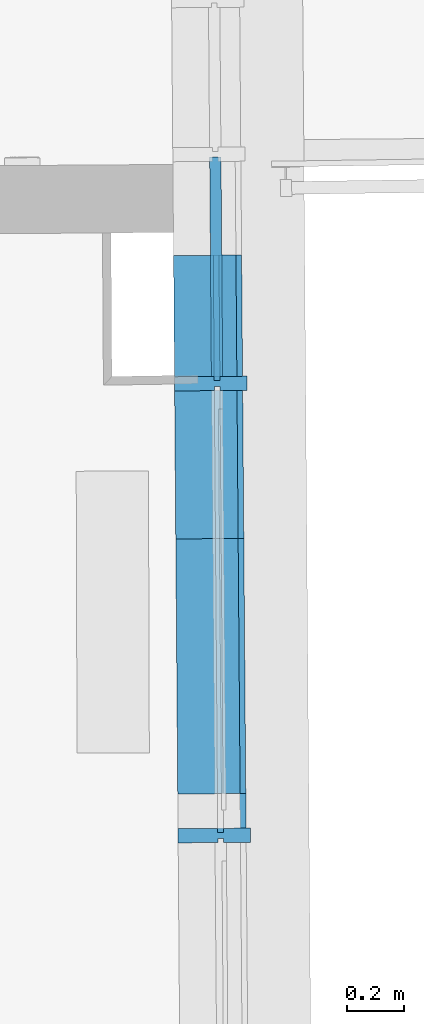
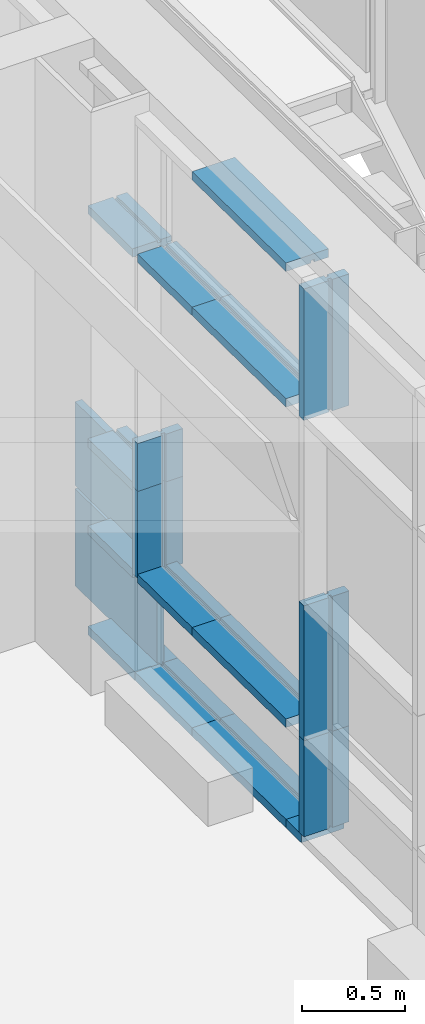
# One storey, part 130 of 158: 19 building element parts, 1 element without a shape of its own.
"""IFC2X3 building model written with IfcOpenShell, lengths in metres."""

from ifc_helpers import new_model, entity, si_unit, converted_unit, derived_unit, money_unit, direction, frame, origin_with_axes, place, context, subcontext, project, spatial, faceted_brep, material, type_object, element, aggregate, save


model = new_model("IFC2X3")

# Units and contexts
model_context = context("Model", 3, precision=1e-05, world=origin_with_axes(), true_north=direction((0.0, 1.0)))
body_context = subcontext(model_context, "Body", "Model", "MODEL_VIEW")
ifc_project = project(units=[si_unit("LENGTHUNIT", "METRE"), si_unit("AREAUNIT", "SQUARE_METRE"), si_unit("VOLUMEUNIT", "CUBIC_METRE"), converted_unit("PLANEANGLEUNIT", "DEGREE", entity("IfcPlaneAngleMeasure", 0.0174532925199), si_unit("PLANEANGLEUNIT", "RADIAN"), dimensions=[0, 0, 0, 0, 0, 0, 0]), money_unit("EUR"), converted_unit("TIMEUNIT", "Year", entity("IfcTimeMeasure", 31556926.0), si_unit("TIMEUNIT", "SECOND"), dimensions=[0, 0, 1, 0, 0, 0, 0]), si_unit("MASSUNIT", "GRAM", prefix="KILO"), si_unit("THERMODYNAMICTEMPERATUREUNIT", "DEGREE_CELSIUS"), si_unit("LUMINOUSINTENSITYUNIT", "LUMEN"), si_unit("ENERGYUNIT", "JOULE", prefix="MEGA"), derived_unit("THERMALCONDUCTANCEUNIT", [(si_unit("POWERUNIT", "WATT"), 1), (si_unit("LENGTHUNIT", "METRE"), -1), (si_unit("THERMODYNAMICTEMPERATUREUNIT", "KELVIN"), -1)]), derived_unit("SPECIFICHEATCAPACITYUNIT", [(si_unit("ENERGYUNIT", "JOULE"), 1), (si_unit("MASSUNIT", "GRAM", prefix="KILO"), -1), (si_unit("THERMODYNAMICTEMPERATUREUNIT", "KELVIN"), -1)]), derived_unit("MASSDENSITYUNIT", [(si_unit("MASSUNIT", "GRAM", prefix="KILO"), 1), (si_unit("VOLUMEUNIT", "CUBIC_METRE"), -1)])], contexts=[model_context])

# Site, building, storey
site_placement = place(None, origin_with_axes())
site = spatial("IfcSite", under=ifc_project, at=site_placement, Name="Gelände", CompositionType="ELEMENT")
building_placement = place(site_placement, origin_with_axes())
building = spatial("IfcBuilding", under=site, at=building_placement, Name="Gebäude", CompositionType="ELEMENT")
storey_placement = place(building_placement, origin_with_axes())
storey = spatial("IfcBuildingStorey", under=building, at=storey_placement, Name="ERDGESCHOSS", CompositionType="ELEMENT", Elevation=0.0)

# Proxy, building element parts
building_element_proxy_type = type_object("IfcBuildingElementProxyType", Name="Fassadentyp", PredefinedType="NOTDEFINED")
proxy_placement = place(storey_placement, frame((-15.5457352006, 40.9565245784, 1.34043905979), z_axis=(0.0, 0.0, 1.0), x_axis=(1.0, 0.0, 0.0)))
proxy = element("IfcBuildingElementProxy", 1, at=proxy_placement, inside=storey, type_object=building_element_proxy_type, Name="Fassade-002")
ifc_material_1 = material(Name="45_Glas, Normalglas")
building_element_part_1_placement = place(proxy_placement, origin_with_axes())
building_element_part_1 = element("IfcBuildingElementPart", 2, at=building_element_part_1_placement, material=ifc_material_1, Name="45_Glas, Normalglas", context=body_context, shape_type="Brep", body=[
    faceted_brep([(-0.0270583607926, 0.907042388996, 1.12681094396), (0.0129404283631, 0.907353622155, 1.12681094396), (0.00949520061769, 1.35012436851, 1.12681094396), (-0.030503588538, 1.34981313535, 1.12681094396), (-0.0270583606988, 0.907042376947, 0.629999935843), (0.0129404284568, 0.907353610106, 0.629999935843), (0.00949520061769, 1.35012436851, 0.629999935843), (0.00680440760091, 1.69593733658, 0.629999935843), (0.00680440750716, 1.69593734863, 1.12681094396), (-0.0331943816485, 1.69562611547, 1.12681094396), (-0.0331943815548, 1.69562610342, 0.629999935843), (-0.030503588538, 1.34981313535, 0.629999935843)], [[[0, 1, 2, 3]], [[4, 5, 1, 0]], [[1, 5, 6, 7, 8, 2]], [[3, 2, 8, 9]], [[0, 3, 9, 10, 11, 4]], [[11, 6, 5, 4]], [[10, 7, 6, 11]], [[9, 8, 7, 10]]]),
])
building_element_part_2_placement = place(proxy_placement, origin_with_axes())
building_element_part_2 = element("IfcBuildingElementPart", 3, at=building_element_part_2_placement, material=ifc_material_1, Name="45_Glas, Normalglas", context=body_context, shape_type="Brep", body=[
    faceted_brep([(-0.027058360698, 0.907042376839, 0.609999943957), (0.0129404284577, 0.907353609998, 0.609999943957), (0.00949520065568, 1.35012436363, 0.609999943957), (-0.0305035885, 1.34981313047, 0.609999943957), (-0.027058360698, 0.907042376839, 0.0349999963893), (0.0129404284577, 0.907353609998, 0.0349999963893), (0.00949520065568, 1.35012436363, 0.0349999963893), (0.00680440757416, 1.69593734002, 0.0349999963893), (0.00680440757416, 1.69593734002, 0.609999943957), (-0.0331943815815, 1.69562610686, 0.609999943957), (-0.0331943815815, 1.69562610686, 0.0349999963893), (-0.0305035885, 1.34981313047, 0.0349999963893)], [[[0, 1, 2, 3]], [[4, 5, 1, 0]], [[1, 5, 6, 7, 8, 2]], [[3, 2, 8, 9]], [[0, 3, 9, 10, 11, 4]], [[11, 6, 5, 4]], [[10, 7, 6, 11]], [[9, 8, 7, 10]]]),
])
ifc_material_2 = material(Name="53_Metall, Aluminium")
building_element_part_3_placement = place(proxy_placement, origin_with_axes())
building_element_part_3 = element("IfcBuildingElementPart", 4, at=building_element_part_3_placement, material=ifc_material_2, Name="53_Metall, Aluminium", context=body_context, shape_type="Brep", body=[
    faceted_brep([(-0.00572031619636, -0.55005154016, 0.60999994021), (0.0142790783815, -0.54989592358, 0.60999994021), (0.0142790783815, -0.54989592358, 0.59499994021), (0.074277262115, -0.549429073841, 0.59499994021), (0.074277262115, -0.549429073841, 0.64499994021), (0.0142790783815, -0.54989592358, 0.64499994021), (0.0142790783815, -0.54989592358, 0.62999994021), (-0.00572031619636, -0.55005154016, 0.62999994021), (-0.00572031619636, -0.55005154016, 0.64499994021), (-0.145716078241, -0.551140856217, 0.64499994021), (-0.145716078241, -0.551140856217, 0.59499994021), (-0.00572031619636, -0.55005154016, 0.59499994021), (-0.012723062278, 0.349921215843, 0.60999994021), (0.00727633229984, 0.350076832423, 0.60999994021), (0.00727633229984, 0.350076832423, 0.59499994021), (0.0672745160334, 0.350543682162, 0.59499994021), (0.0672745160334, 0.350543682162, 0.64499994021), (0.00727633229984, 0.350076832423, 0.64499994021), (0.00727633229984, 0.350076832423, 0.62999994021), (-0.012723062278, 0.349921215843, 0.62999994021), (-0.012723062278, 0.349921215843, 0.64499994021), (-0.152718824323, 0.348831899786, 0.64499994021), (-0.152718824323, 0.348831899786, 0.59499994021), (-0.012723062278, 0.349921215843, 0.59499994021)], [[[0, 1, 2, 3, 4, 5, 6, 7, 8, 9, 10, 11]], [[0, 12, 13, 1]], [[1, 13, 14, 2]], [[14, 15, 3, 2]], [[3, 15, 16, 4]], [[17, 5, 4, 16]], [[5, 17, 18, 6]], [[7, 6, 18, 19]], [[8, 7, 19, 20]], [[8, 20, 21, 9]], [[9, 21, 22, 10]], [[11, 10, 22, 23]], [[11, 23, 12, 0]], [[13, 12, 23, 22, 21, 20, 19, 18, 17, 16, 15, 14]]]),
])
building_element_part_4_placement = place(proxy_placement, origin_with_axes())
building_element_part_4 = element("IfcBuildingElementPart", 5, at=building_element_part_4_placement, material=ifc_material_2, Name="53_Metall, Aluminium", context=body_context, shape_type="Brep", body=[
    faceted_brep([(-0.0171753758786, 0.922119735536, 0.60999994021), (0.00282401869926, 0.922275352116, 0.60999994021), (0.00282401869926, 0.922275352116, 0.59499994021), (0.0628222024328, 0.922742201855, 0.59499994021), (0.0628222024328, 0.922742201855, 0.64499994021), (0.00282401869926, 0.922275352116, 0.64499994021), (0.00282401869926, 0.922275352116, 0.62999994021), (-0.0171753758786, 0.922119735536, 0.62999994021), (-0.0171753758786, 0.922119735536, 0.64499994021), (-0.157171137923, 0.921030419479, 0.64499994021), (-0.157171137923, 0.921030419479, 0.59499994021), (-0.0171753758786, 0.922119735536, 0.59499994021), (-0.0205038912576, 1.34989094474, 0.60999994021), (-0.000504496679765, 1.35004656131, 0.60999994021), (-0.000504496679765, 1.35004656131, 0.59499994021), (0.0594936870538, 1.35051341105, 0.59499994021), (0.0594936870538, 1.35051341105, 0.64499994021), (-0.000504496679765, 1.35004656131, 0.64499994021), (-0.000504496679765, 1.35004656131, 0.62999994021), (-0.0205038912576, 1.34989094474, 0.62999994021), (-0.0205038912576, 1.34989094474, 0.64499994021), (-0.160499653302, 1.34880162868, 0.64499994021), (-0.160499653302, 1.34880162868, 0.59499994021), (-0.0205038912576, 1.34989094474, 0.59499994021)], [[[0, 1, 2, 3, 4, 5, 6, 7, 8, 9, 10, 11]], [[0, 12, 13, 1]], [[1, 13, 14, 2]], [[14, 15, 3, 2]], [[3, 15, 16, 4]], [[17, 5, 4, 16]], [[5, 17, 18, 6]], [[7, 6, 18, 19]], [[8, 7, 19, 20]], [[8, 20, 21, 9]], [[9, 21, 22, 10]], [[11, 10, 22, 23]], [[11, 23, 12, 0]], [[13, 12, 23, 22, 21, 20, 19, 18, 17, 16, 15, 14]]]),
])
building_element_part_5_placement = place(proxy_placement, origin_with_axes())
building_element_part_5 = element("IfcBuildingElementPart", 6, at=building_element_part_5_placement, material=ifc_material_2, Name="53_Metall, Aluminium", context=body_context, shape_type="Brep", body=[
    faceted_brep([(-0.00572031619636, -0.55005154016, 2.50999994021), (0.0142790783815, -0.54989592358, 2.50999994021), (0.0142790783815, -0.54989592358, 2.49499994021), (0.074277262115, -0.549429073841, 2.49499994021), (0.074277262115, -0.549429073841, 2.54499994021), (0.0142790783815, -0.54989592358, 2.54499994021), (0.0142790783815, -0.54989592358, 2.52999994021), (-0.00572031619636, -0.55005154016, 2.52999994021), (-0.00572031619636, -0.55005154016, 2.54499994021), (-0.145716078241, -0.551140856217, 2.54499994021), (-0.145716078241, -0.551140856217, 2.49499994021), (-0.00572031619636, -0.55005154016, 2.49499994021), (-0.012723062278, 0.349921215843, 2.50999994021), (0.00727633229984, 0.350076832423, 2.50999994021), (0.00727633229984, 0.350076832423, 2.49499994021), (0.0672745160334, 0.350543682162, 2.49499994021), (0.0672745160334, 0.350543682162, 2.54499994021), (0.00727633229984, 0.350076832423, 2.54499994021), (0.00727633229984, 0.350076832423, 2.52999994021), (-0.012723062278, 0.349921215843, 2.52999994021), (-0.012723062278, 0.349921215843, 2.54499994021), (-0.152718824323, 0.348831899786, 2.54499994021), (-0.152718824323, 0.348831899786, 2.49499994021), (-0.012723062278, 0.349921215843, 2.49499994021)], [[[0, 1, 2, 3, 4, 5, 6, 7, 8, 9, 10, 11]], [[0, 12, 13, 1]], [[1, 13, 14, 2]], [[14, 15, 3, 2]], [[3, 15, 16, 4]], [[17, 5, 4, 16]], [[5, 17, 18, 6]], [[7, 6, 18, 19]], [[8, 7, 19, 20]], [[8, 20, 21, 9]], [[9, 21, 22, 10]], [[11, 10, 22, 23]], [[11, 23, 12, 0]], [[13, 12, 23, 22, 21, 20, 19, 18, 17, 16, 15, 14]]]),
])
building_element_part_6_placement = place(proxy_placement, origin_with_axes())
building_element_part_6 = element("IfcBuildingElementPart", 7, at=building_element_part_6_placement, material=ifc_material_2, Name="53_Metall, Aluminium", context=body_context, shape_type="Brep", body=[
    faceted_brep([(-0.012723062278, 0.349921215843, 0.60999994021), (0.00727633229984, 0.350076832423, 0.60999994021), (0.00727633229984, 0.350076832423, 0.59499994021), (0.0672745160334, 0.350543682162, 0.59499994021), (0.0672745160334, 0.350543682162, 0.64499994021), (0.00727633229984, 0.350076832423, 0.64499994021), (0.00727633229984, 0.350076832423, 0.62999994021), (-0.012723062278, 0.349921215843, 0.62999994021), (-0.012723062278, 0.349921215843, 0.64499994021), (-0.152718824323, 0.348831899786, 0.64499994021), (-0.152718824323, 0.348831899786, 0.59499994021), (-0.012723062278, 0.349921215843, 0.59499994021), (-0.0167863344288, 0.872121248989, 0.60999994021), (0.00321306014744, 0.872276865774, 0.60999994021), (0.00321306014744, 0.872276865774, 0.59499994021), (0.0632112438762, 0.872743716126, 0.59499994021), (0.0632112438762, 0.872743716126, 0.64499994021), (0.00321306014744, 0.872276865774, 0.64499994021), (0.00321306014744, 0.872276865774, 0.62999994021), (-0.0167863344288, 0.872121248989, 0.62999994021), (-0.0167863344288, 0.872121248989, 0.64499994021), (-0.156782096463, 0.8710319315, 0.64499994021), (-0.156782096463, 0.8710319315, 0.59499994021), (-0.0167863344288, 0.872121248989, 0.59499994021)], [[[0, 1, 2, 3, 4, 5, 6, 7, 8, 9, 10, 11]], [[0, 12, 13, 1]], [[1, 13, 14, 2]], [[14, 15, 3, 2]], [[4, 3, 15, 16]], [[17, 5, 4, 16]], [[5, 17, 18, 6]], [[7, 6, 18, 19]], [[8, 7, 19, 20]], [[8, 20, 21, 9]], [[10, 9, 21, 22]], [[11, 10, 22, 23]], [[11, 23, 12, 0]], [[13, 12, 23, 22, 21, 20, 19, 18, 17, 16, 15, 14]]]),
])
building_element_part_7_placement = place(proxy_placement, origin_with_axes())
building_element_part_7 = element("IfcBuildingElementPart", 8, at=building_element_part_7_placement, material=ifc_material_2, Name="53_Metall, Aluminium", context=body_context, shape_type="Brep", body=[
    faceted_brep([(-0.0169030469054, 0.887120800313, 1.41999994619), (0.0030963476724, 0.887276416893, 1.41999994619), (0.00321306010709, 0.872276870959, 1.41999994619), (0.0982101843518, 0.873016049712, 1.41999994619), (0.0978211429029, 0.923014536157, 1.41999994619), (0.00282401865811, 0.922275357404, 1.41999994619), (0.0029407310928, 0.90727581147, 1.41999994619), (-0.017058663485, 0.907120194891, 1.41999994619), (-0.0171753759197, 0.922119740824, 1.41999994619), (-0.157171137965, 0.921030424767, 1.41999994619), (-0.156782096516, 0.871031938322, 1.41999994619), (-0.0167863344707, 0.87212125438, 1.41999994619), (-0.0169030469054, 0.887120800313, 1.13681093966), (0.0030963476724, 0.887276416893, 1.13681093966), (0.00321306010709, 0.872276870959, 1.13681093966), (0.0982101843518, 0.873016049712, 1.13681093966), (0.0978211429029, 0.923014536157, 1.13681093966), (0.00282401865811, 0.922275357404, 1.13681093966), (0.0029407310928, 0.90727581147, 1.13681093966), (-0.017058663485, 0.907120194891, 1.13681093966), (-0.0171753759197, 0.922119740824, 1.13681093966), (-0.157171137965, 0.921030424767, 1.13681093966), (-0.156782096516, 0.871031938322, 1.13681093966), (-0.0167863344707, 0.87212125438, 1.13681093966)], [[[0, 1, 2, 3, 4, 5, 6, 7, 8, 9, 10, 11]], [[0, 12, 13, 1]], [[1, 13, 14, 2]], [[14, 15, 3, 2]], [[3, 15, 16, 4]], [[17, 5, 4, 16]], [[5, 17, 18, 6]], [[7, 6, 18, 19]], [[8, 7, 19, 20]], [[8, 20, 21, 9]], [[9, 21, 22, 10]], [[11, 10, 22, 23]], [[11, 23, 12, 0]], [[13, 12, 23, 22, 21, 20, 19, 18, 17, 16, 15, 14]]]),
])
building_element_part_8_placement = place(proxy_placement, origin_with_axes())
building_element_part_8 = element("IfcBuildingElementPart", 9, at=building_element_part_8_placement, material=ifc_material_2, Name="53_Metall, Aluminium", context=body_context, shape_type="Brep", body=[
    faceted_brep([(-0.0171753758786, 0.922119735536, 2.50999994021), (0.00282401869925, 0.922275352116, 2.50999994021), (0.00282401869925, 0.922275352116, 2.49499994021), (0.0628222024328, 0.922742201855, 2.49499994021), (0.0628222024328, 0.922742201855, 2.54499994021), (0.00282401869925, 0.922275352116, 2.54499994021), (0.00282401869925, 0.922275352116, 2.52999994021), (-0.0171753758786, 0.922119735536, 2.52999994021), (-0.0171753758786, 0.922119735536, 2.54499994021), (-0.157171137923, 0.921030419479, 2.54499994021), (-0.157171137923, 0.921030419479, 2.49499994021), (-0.0171753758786, 0.922119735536, 2.49499994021), (-0.0205038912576, 1.34989094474, 2.50999994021), (-0.000504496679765, 1.35004656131, 2.50999994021), (-0.000504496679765, 1.35004656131, 2.49499994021), (0.0594936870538, 1.35051341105, 2.49499994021), (0.0594936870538, 1.35051341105, 2.54499994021), (-0.000504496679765, 1.35004656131, 2.54499994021), (-0.000504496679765, 1.35004656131, 2.52999994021), (-0.0205038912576, 1.34989094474, 2.52999994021), (-0.0205038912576, 1.34989094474, 2.54499994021), (-0.160499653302, 1.34880162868, 2.54499994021), (-0.160499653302, 1.34880162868, 2.49499994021), (-0.0205038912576, 1.34989094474, 2.49499994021)], [[[0, 1, 2, 3, 4, 5, 6, 7, 8, 9, 10, 11]], [[0, 12, 13, 1]], [[1, 13, 14, 2]], [[14, 15, 3, 2]], [[3, 15, 16, 4]], [[17, 5, 4, 16]], [[5, 17, 18, 6]], [[7, 6, 18, 19]], [[8, 7, 19, 20]], [[8, 20, 21, 9]], [[9, 21, 22, 10]], [[11, 10, 22, 23]], [[11, 23, 12, 0]], [[13, 12, 23, 22, 21, 20, 19, 18, 17, 16, 15, 14]]]),
])
building_element_part_9_placement = place(proxy_placement, origin_with_axes())
building_element_part_9 = element("IfcBuildingElementPart", 10, at=building_element_part_9_placement, material=ifc_material_2, Name="53_Metall, Aluminium", context=body_context, shape_type="Brep", body=[
    faceted_brep([(-0.0169808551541, 0.897120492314, 0.035), (-0.0169808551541, 0.897120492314, 0.05), (-0.156976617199, 0.896031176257, 0.05), (-0.156976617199, 0.896031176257, 0.0), (0.0830161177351, 0.897898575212, 0.0), (0.0830161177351, 0.897898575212, 0.05), (0.00301853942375, 0.897276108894, 0.05), (0.00301853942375, 0.897276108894, 0.035), (-0.0205038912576, 1.34989094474, 0.035), (-0.0205038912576, 1.34989094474, 0.05), (-0.160499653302, 1.34880162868, 0.05), (-0.160499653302, 1.34880162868, 0.0), (0.0794930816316, 1.35066902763, 0.0), (0.0794930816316, 1.35066902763, 0.05), (-0.000504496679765, 1.35004656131, 0.05), (-0.000504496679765, 1.35004656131, 0.035)], [[[0, 1, 2, 3, 4, 5, 6, 7]], [[0, 8, 9, 1]], [[9, 10, 2, 1]], [[10, 11, 3, 2]], [[11, 12, 4, 3]], [[12, 13, 5, 4]], [[6, 5, 13, 14]], [[14, 15, 7, 6]], [[7, 15, 8, 0]], [[8, 15, 14, 13, 12, 11, 10, 9]]]),
])
building_element_part_10_placement = place(proxy_placement, origin_with_axes())
building_element_part_10 = element("IfcBuildingElementPart", 11, at=building_element_part_10_placement, material=ifc_material_2, Name="53_Metall, Aluminium", context=body_context, shape_type="Brep", body=[
    faceted_brep([(-0.00572031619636, -0.55005154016, 0.035), (-0.00572031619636, -0.55005154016, 0.05), (-0.145716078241, -0.551140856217, 0.05), (-0.145716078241, -0.551140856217, 0.0), (0.0942766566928, -0.549273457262, 0.0), (0.0942766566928, -0.549273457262, 0.05), (0.0142790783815, -0.54989592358, 0.05), (0.0142790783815, -0.54989592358, 0.035), (-0.012723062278, 0.349921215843, 0.035), (-0.012723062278, 0.349921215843, 0.05), (-0.152718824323, 0.348831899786, 0.05), (-0.152718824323, 0.348831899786, 0.0), (0.0872739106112, 0.350699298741, 0.0), (0.0872739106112, 0.350699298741, 0.05), (0.00727633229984, 0.350076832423, 0.05), (0.00727633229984, 0.350076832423, 0.035)], [[[0, 1, 2, 3, 4, 5, 6, 7]], [[0, 8, 9, 1]], [[9, 10, 2, 1]], [[10, 11, 3, 2]], [[11, 12, 4, 3]], [[12, 13, 5, 4]], [[6, 5, 13, 14]], [[14, 15, 7, 6]], [[7, 15, 8, 0]], [[8, 15, 14, 13, 12, 11, 10, 9]]]),
])
building_element_part_11_placement = place(proxy_placement, origin_with_axes())
building_element_part_11 = element("IfcBuildingElementPart", 12, at=building_element_part_11_placement, material=ifc_material_2, Name="53_Metall, Aluminium", context=body_context, shape_type="Brep", body=[
    faceted_brep([(-0.0169030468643, 0.887120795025, 1.1368109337), (0.00309634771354, 0.887276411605, 1.1368109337), (0.00321306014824, 0.872276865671, 1.1368109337), (0.098210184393, 0.873016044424, 1.1368109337), (0.097821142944, 0.923014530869, 1.1368109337), (0.00282401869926, 0.922275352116, 1.1368109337), (0.00294073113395, 0.907275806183, 1.1368109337), (-0.0170586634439, 0.907120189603, 1.1368109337), (-0.0171753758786, 0.922119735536, 1.1368109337), (-0.157171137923, 0.921030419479, 1.1368109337), (-0.156782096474, 0.871031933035, 1.1368109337), (-0.0167863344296, 0.872121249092, 1.1368109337), (-0.0169030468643, 0.887120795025, 0.619999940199), (0.00309634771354, 0.887276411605, 0.619999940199), (0.00321306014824, 0.872276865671, 0.619999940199), (0.098210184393, 0.873016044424, 0.619999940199), (0.097821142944, 0.923014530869, 0.619999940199), (0.00282401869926, 0.922275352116, 0.619999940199), (0.00294073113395, 0.907275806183, 0.619999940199), (-0.0170586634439, 0.907120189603, 0.619999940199), (-0.0171753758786, 0.922119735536, 0.619999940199), (-0.157171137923, 0.921030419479, 0.619999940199), (-0.156782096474, 0.871031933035, 0.619999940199), (-0.0167863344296, 0.872121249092, 0.619999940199)], [[[0, 1, 2, 3, 4, 5, 6, 7, 8, 9, 10, 11]], [[0, 12, 13, 1]], [[1, 13, 14, 2]], [[14, 15, 3, 2]], [[3, 15, 16, 4]], [[17, 5, 4, 16]], [[5, 17, 18, 6]], [[7, 6, 18, 19]], [[8, 7, 19, 20]], [[8, 20, 21, 9]], [[9, 21, 22, 10]], [[11, 10, 22, 23]], [[11, 23, 12, 0]], [[13, 12, 23, 22, 21, 20, 19, 18, 17, 16, 15, 14]]]),
])
building_element_part_12_placement = place(proxy_placement, origin_with_axes())
building_element_part_12 = element("IfcBuildingElementPart", 13, at=building_element_part_12_placement, material=ifc_material_2, Name="53_Metall, Aluminium", context=body_context, shape_type="Brep", body=[
    faceted_brep([(-0.0127230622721, 0.349921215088, 2.50999994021), (0.00727633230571, 0.350076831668, 2.50999994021), (0.00727633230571, 0.350076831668, 2.49499994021), (0.0672745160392, 0.350543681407, 2.49499994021), (0.0672745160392, 0.350543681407, 2.54499994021), (0.00727633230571, 0.350076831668, 2.54499994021), (0.00727633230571, 0.350076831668, 2.52999994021), (-0.0127230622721, 0.349921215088, 2.52999994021), (-0.0127230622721, 0.349921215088, 2.54499994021), (-0.152718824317, 0.348831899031, 2.54499994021), (-0.152718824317, 0.348831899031, 2.49499994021), (-0.0127230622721, 0.349921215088, 2.49499994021), (-0.0167863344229, 0.872121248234, 2.50999994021), (0.00321306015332, 0.872276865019, 2.50999994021), (0.00321306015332, 0.872276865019, 2.49499994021), (0.0632112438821, 0.872743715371, 2.49499994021), (0.0632112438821, 0.872743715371, 2.54499994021), (0.00321306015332, 0.872276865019, 2.54499994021), (0.00321306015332, 0.872276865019, 2.52999994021), (-0.0167863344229, 0.872121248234, 2.52999994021), (-0.0167863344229, 0.872121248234, 2.54499994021), (-0.156782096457, 0.871031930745, 2.54499994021), (-0.156782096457, 0.871031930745, 2.49499994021), (-0.0167863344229, 0.872121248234, 2.49499994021)], [[[0, 1, 2, 3, 4, 5, 6, 7, 8, 9, 10, 11]], [[0, 12, 13, 1]], [[1, 13, 14, 2]], [[14, 15, 3, 2]], [[4, 3, 15, 16]], [[17, 5, 4, 16]], [[5, 17, 18, 6]], [[7, 6, 18, 19]], [[8, 7, 19, 20]], [[8, 20, 21, 9]], [[10, 9, 21, 22]], [[11, 10, 22, 23]], [[11, 23, 12, 0]], [[13, 12, 23, 22, 21, 20, 19, 18, 17, 16, 15, 14]]]),
])
building_element_part_13_placement = place(proxy_placement, origin_with_axes())
building_element_part_13 = element("IfcBuildingElementPart", 14, at=building_element_part_13_placement, material=ifc_material_2, Name="53_Metall, Aluminium", context=body_context, shape_type="Brep", body=[
    faceted_brep([(-0.012723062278, 0.349921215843, 0.035), (-0.012723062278, 0.349921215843, 0.05), (-0.152718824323, 0.348831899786, 0.05), (-0.152718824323, 0.348831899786, 0.0), (0.0872739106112, 0.350699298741, 0.0), (0.0872739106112, 0.350699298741, 0.05), (0.00727633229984, 0.350076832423, 0.05), (0.00727633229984, 0.350076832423, 0.035), (-0.0169808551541, 0.897120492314, 0.035), (-0.0169808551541, 0.897120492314, 0.05), (-0.156976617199, 0.896031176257, 0.05), (-0.156976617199, 0.896031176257, 0.0), (0.0830161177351, 0.897898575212, 0.0), (0.0830161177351, 0.897898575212, 0.05), (0.00301853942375, 0.897276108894, 0.05), (0.00301853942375, 0.897276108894, 0.035)], [[[0, 1, 2, 3, 4, 5, 6, 7]], [[0, 8, 9, 1]], [[9, 10, 2, 1]], [[10, 11, 3, 2]], [[11, 12, 4, 3]], [[12, 13, 5, 4]], [[6, 5, 13, 14]], [[14, 15, 7, 6]], [[7, 15, 8, 0]], [[8, 15, 14, 13, 12, 11, 10, 9]]]),
])
building_element_part_14_placement = place(proxy_placement, origin_with_axes())
building_element_part_14 = element("IfcBuildingElementPart", 15, at=building_element_part_14_placement, material=ifc_material_2, Name="53_Metall, Aluminium", context=body_context, shape_type="Brep", body=[
    faceted_brep([(-0.00449674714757, -0.707301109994, 0.619999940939), (0.0155026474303, -0.707145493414, 0.619999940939), (0.015619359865, -0.722145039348, 0.619999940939), (0.11061648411, -0.721405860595, 0.619999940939), (0.110227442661, -0.67140737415, 0.619999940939), (0.015230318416, -0.672146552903, 0.619999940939), (0.0153470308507, -0.687146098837, 0.619999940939), (-0.00465236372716, -0.687301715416, 0.619999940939), (-0.00476907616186, -0.672302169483, 0.619999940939), (-0.144764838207, -0.67339148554, 0.619999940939), (-0.144375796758, -0.723389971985, 0.619999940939), (-0.00438003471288, -0.722300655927, 0.619999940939), (-0.00449674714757, -0.707301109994, 0.0500000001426), (0.0155026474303, -0.707145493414, 0.0499999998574), (0.015619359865, -0.722145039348, 0.0499999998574), (0.11061648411, -0.721405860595, 0.0499999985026), (0.110227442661, -0.67140737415, 0.0499999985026), (0.015230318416, -0.672146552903, 0.0499999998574), (0.0153470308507, -0.687146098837, 0.0499999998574), (-0.00465236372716, -0.687301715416, 0.0500000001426), (-0.00476907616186, -0.672302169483, 0.0500000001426), (-0.144764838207, -0.67339148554, 0.0500000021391), (-0.144375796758, -0.723389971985, 0.0500000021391), (-0.00438003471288, -0.722300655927, 0.0500000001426)], [[[0, 1, 2, 3, 4, 5, 6, 7, 8, 9, 10, 11]], [[0, 12, 13, 1]], [[1, 13, 14, 2]], [[14, 15, 3, 2]], [[4, 3, 15, 16]], [[17, 5, 4, 16]], [[5, 17, 18, 6]], [[7, 6, 18, 19]], [[8, 7, 19, 20]], [[8, 20, 21, 9]], [[10, 9, 21, 22]], [[11, 10, 22, 23]], [[11, 23, 12, 0]], [[13, 12, 23, 22, 21, 20, 19, 18, 17, 16, 15, 14]]]),
])
building_element_part_15_placement = place(proxy_placement, origin_with_axes())
building_element_part_15 = element("IfcBuildingElementPart", 16, at=building_element_part_15_placement, material=ifc_material_2, Name="53_Metall, Aluminium", context=body_context, shape_type="Brep", body=[
    faceted_brep([(-0.0171753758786, 0.922119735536, 1.12681093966), (0.00282401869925, 0.922275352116, 1.12681093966), (0.00282401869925, 0.922275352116, 1.11181093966), (0.0628222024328, 0.922742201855, 1.11181093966), (0.0628222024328, 0.922742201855, 1.16181093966), (0.00282401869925, 0.922275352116, 1.16181093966), (0.00282401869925, 0.922275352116, 1.14681093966), (-0.0171753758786, 0.922119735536, 1.14681093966), (-0.0171753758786, 0.922119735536, 1.16181093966), (-0.157171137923, 0.921030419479, 1.16181093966), (-0.157171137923, 0.921030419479, 1.11181093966), (-0.0171753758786, 0.922119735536, 1.11181093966), (-0.0205038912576, 1.34989094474, 1.12681093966), (-0.000504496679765, 1.35004656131, 1.12681093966), (-0.000504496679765, 1.35004656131, 1.11181093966), (0.0594936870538, 1.35051341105, 1.11181093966), (0.0594936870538, 1.35051341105, 1.16181093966), (-0.000504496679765, 1.35004656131, 1.16181093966), (-0.000504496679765, 1.35004656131, 1.14681093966), (-0.0205038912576, 1.34989094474, 1.14681093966), (-0.0205038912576, 1.34989094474, 1.16181093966), (-0.160499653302, 1.34880162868, 1.16181093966), (-0.160499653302, 1.34880162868, 1.11181093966), (-0.0205038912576, 1.34989094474, 1.11181093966)], [[[0, 1, 2, 3, 4, 5, 6, 7, 8, 9, 10, 11]], [[0, 12, 13, 1]], [[1, 13, 14, 2]], [[14, 15, 3, 2]], [[3, 15, 16, 4]], [[17, 5, 4, 16]], [[5, 17, 18, 6]], [[7, 6, 18, 19]], [[8, 7, 19, 20]], [[8, 20, 21, 9]], [[9, 21, 22, 10]], [[11, 10, 22, 23]], [[11, 23, 12, 0]], [[13, 12, 23, 22, 21, 20, 19, 18, 17, 16, 15, 14]]]),
])
building_element_part_16_placement = place(proxy_placement, origin_with_axes())
building_element_part_16 = element("IfcBuildingElementPart", 17, at=building_element_part_16_placement, material=ifc_material_2, Name="53_Metall, Aluminium", context=body_context, shape_type="Brep", body=[
    faceted_brep([(-0.00449674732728, -0.707301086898, 1.41999994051), (0.0155026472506, -0.707145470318, 1.41999994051), (0.0156193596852, -0.722145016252, 1.41999994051), (0.11061648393, -0.721405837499, 1.41999994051), (0.110227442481, -0.671407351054, 1.41999994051), (0.0152303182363, -0.672146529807, 1.41999994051), (0.015347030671, -0.68714607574, 1.41999994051), (-0.00465236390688, -0.68730169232, 1.41999994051), (-0.00476907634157, -0.672302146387, 1.41999994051), (-0.144764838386, -0.673391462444, 1.41999994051), (-0.144375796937, -0.723389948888, 1.41999994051), (-0.00438003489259, -0.722300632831, 1.41999994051), (-0.00449674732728, -0.707301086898, 0.619999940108), (0.0155026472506, -0.707145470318, 0.619999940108), (0.0156193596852, -0.722145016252, 0.619999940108), (0.11061648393, -0.721405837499, 0.619999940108), (0.110227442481, -0.671407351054, 0.619999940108), (0.0152303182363, -0.672146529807, 0.619999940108), (0.015347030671, -0.68714607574, 0.619999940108), (-0.00465236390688, -0.68730169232, 0.619999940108), (-0.00476907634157, -0.672302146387, 0.619999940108), (-0.144764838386, -0.673391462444, 0.619999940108), (-0.144375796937, -0.723389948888, 0.619999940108), (-0.00438003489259, -0.722300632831, 0.619999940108)], [[[0, 1, 2, 3, 4, 5, 6, 7, 8, 9, 10, 11]], [[0, 12, 13, 1]], [[1, 13, 14, 2]], [[14, 15, 3, 2]], [[3, 15, 16, 4]], [[17, 5, 4, 16]], [[5, 17, 18, 6]], [[7, 6, 18, 19]], [[8, 7, 19, 20]], [[8, 20, 21, 9]], [[9, 21, 22, 10]], [[11, 10, 22, 23]], [[11, 23, 12, 0]], [[13, 12, 23, 22, 21, 20, 19, 18, 17, 16, 15, 14]]]),
])
building_element_part_17_placement = place(proxy_placement, origin_with_axes())
building_element_part_17 = element("IfcBuildingElementPart", 18, at=building_element_part_17_placement, material=ifc_material_2, Name="53_Metall, Aluminium", context=body_context, shape_type="Brep", body=[
    faceted_brep([(-0.00457455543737, -0.697301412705, 0.035), (-0.00457455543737, -0.697301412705, 0.05), (-0.144570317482, -0.698390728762, 0.05), (-0.144570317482, -0.698390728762, 0.0), (0.0954224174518, -0.696523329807, 0.0), (0.0954224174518, -0.696523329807, 0.05), (0.0154248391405, -0.697145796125, 0.05), (0.0154248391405, -0.697145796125, 0.035), (-0.00572031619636, -0.55005154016, 0.035), (-0.00572031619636, -0.55005154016, 0.05), (-0.145716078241, -0.551140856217, 0.05), (-0.145716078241, -0.551140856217, 0.0), (0.0942766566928, -0.549273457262, 0.0), (0.0942766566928, -0.549273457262, 0.05), (0.0142790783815, -0.54989592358, 0.05), (0.0142790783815, -0.54989592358, 0.035)], [[[0, 1, 2, 3, 4, 5, 6, 7]], [[0, 8, 9, 1]], [[9, 10, 2, 1]], [[10, 11, 3, 2]], [[11, 12, 4, 3]], [[12, 13, 5, 4]], [[6, 5, 13, 14]], [[14, 15, 7, 6]], [[7, 15, 8, 0]], [[8, 15, 14, 13, 12, 11, 10, 9]]]),
])
building_element_part_18_placement = place(proxy_placement, origin_with_axes())
building_element_part_18 = element("IfcBuildingElementPart", 19, at=building_element_part_18_placement, material=ifc_material_2, Name="53_Metall, Aluminium", context=body_context, shape_type="Brep", body=[
    faceted_brep([(-0.00572031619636, -0.55005154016, 3.31499987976), (0.0142790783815, -0.54989592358, 3.31499987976), (0.0142790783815, -0.54989592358, 3.29999987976), (0.0942766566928, -0.549273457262, 3.29999987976), (0.0942766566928, -0.549273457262, 3.34999987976), (-0.145716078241, -0.551140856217, 3.34999987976), (-0.145716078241, -0.551140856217, 3.29999987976), (-0.00572031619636, -0.55005154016, 3.29999987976), (-0.012723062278, 0.349921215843, 3.31499987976), (0.00727633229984, 0.350076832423, 3.31499987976), (0.00727633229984, 0.350076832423, 3.29999987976), (0.0872739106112, 0.350699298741, 3.29999987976), (0.0872739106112, 0.350699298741, 3.34999987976), (-0.152718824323, 0.348831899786, 3.34999987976), (-0.152718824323, 0.348831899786, 3.29999987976), (-0.012723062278, 0.349921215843, 3.29999987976)], [[[0, 1, 2, 3, 4, 5, 6, 7]], [[1, 0, 8, 9]], [[10, 2, 1, 9]], [[2, 10, 11, 3]], [[12, 4, 3, 11]], [[13, 5, 4, 12]], [[14, 6, 5, 13]], [[15, 7, 6, 14]], [[0, 7, 15, 8]], [[8, 15, 14, 13, 12, 11, 10, 9]]]),
])
building_element_part_19_placement = place(proxy_placement, origin_with_axes())
building_element_part_19 = element("IfcBuildingElementPart", 20, at=building_element_part_19_placement, material=ifc_material_2, Name="53_Metall, Aluminium", context=body_context, shape_type="Brep", body=[
    faceted_brep([(-0.00449674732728, -0.707301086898, 3.29999987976), (0.0155026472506, -0.707145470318, 3.29999987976), (0.0156193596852, -0.722145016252, 3.29999987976), (0.11061648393, -0.721405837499, 3.29999987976), (0.110227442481, -0.671407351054, 3.29999987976), (0.0152303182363, -0.672146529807, 3.29999987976), (0.015347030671, -0.68714607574, 3.29999987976), (-0.00465236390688, -0.68730169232, 3.29999987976), (-0.00476907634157, -0.672302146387, 3.29999987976), (-0.144764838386, -0.673391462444, 3.29999987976), (-0.144375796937, -0.723389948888, 3.29999987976), (-0.00438003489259, -0.722300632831, 3.29999987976), (-0.00449674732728, -0.707301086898, 2.5199999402), (0.0155026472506, -0.707145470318, 2.5199999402), (0.0156193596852, -0.722145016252, 2.5199999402), (0.11061648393, -0.721405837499, 2.5199999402), (0.110227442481, -0.671407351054, 2.5199999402), (0.0152303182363, -0.672146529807, 2.5199999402), (0.015347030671, -0.68714607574, 2.5199999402), (-0.00465236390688, -0.68730169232, 2.5199999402), (-0.00476907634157, -0.672302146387, 2.5199999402), (-0.144764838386, -0.673391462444, 2.5199999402), (-0.144375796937, -0.723389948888, 2.5199999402), (-0.00438003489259, -0.722300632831, 2.5199999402)], [[[0, 1, 2, 3, 4, 5, 6, 7, 8, 9, 10, 11]], [[0, 12, 13, 1]], [[1, 13, 14, 2]], [[14, 15, 3, 2]], [[3, 15, 16, 4]], [[17, 5, 4, 16]], [[5, 17, 18, 6]], [[7, 6, 18, 19]], [[8, 7, 19, 20]], [[8, 20, 21, 9]], [[9, 21, 22, 10]], [[11, 10, 22, 23]], [[11, 23, 12, 0]], [[13, 12, 23, 22, 21, 20, 19, 18, 17, 16, 15, 14]]]),
])
aggregate(proxy, [building_element_part_1, building_element_part_2, building_element_part_3, building_element_part_4, building_element_part_5, building_element_part_6, building_element_part_7, building_element_part_8, building_element_part_9, building_element_part_10, building_element_part_11, building_element_part_12, building_element_part_13, building_element_part_14, building_element_part_15, building_element_part_16, building_element_part_17, building_element_part_18, building_element_part_19])

save(model, "model.ifc")
